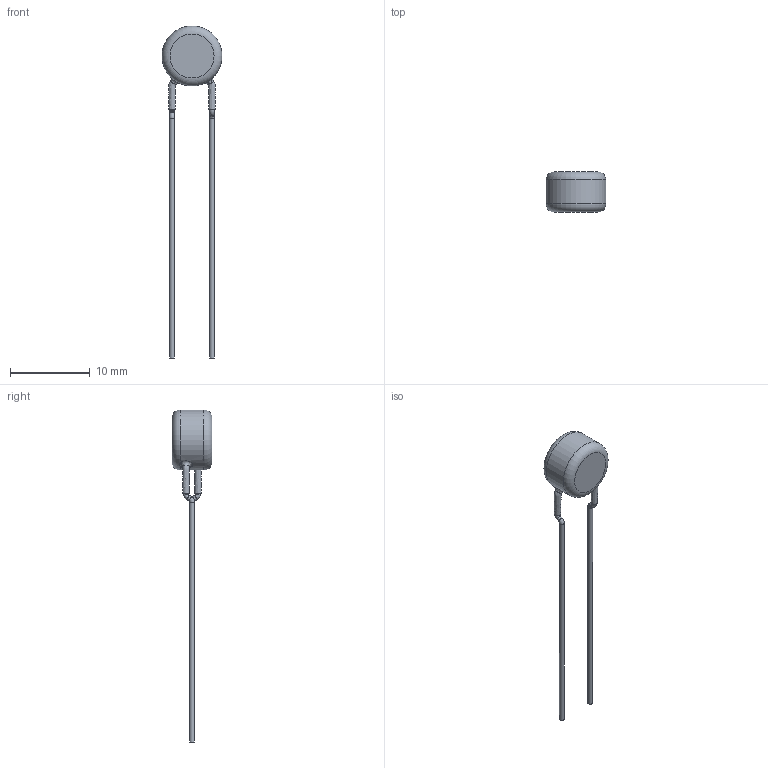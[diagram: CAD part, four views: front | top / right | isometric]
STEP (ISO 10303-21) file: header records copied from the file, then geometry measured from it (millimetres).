
FILE_DESCRIPTION(/* description */ (''),/* implementation_level */ '2;1');
FILE_NAME(/* name */ 'I:\Marketing\M6t1\3D-Models\Zchng-Werk-3\Upload for homepage\BCC\AY2\Inline Dia 0,6 LS 5\AY2100K29U2JS63V5.stp',/* time_stamp */ '2020-11-05T15:34:13+01:00',/* author */ ('truediger'),/* organization */ (''),/* preprocessor_version */ 'ST-DEVELOPER v18',/* originating_system */ 'Autodesk Inventor 2020',/* authorisation */ '');
FILE_SCHEMA (('AUTOMOTIVE_DESIGN { 1 0 10303 214 3 1 1 }'));
Length unit declared in the file: millimetre
Products named in the file (1): Bauteil7
Bounding box: 7.5 x 5 x 41.5 mm (x, y, z)
Volume: 233.6 mm3; surface area: 322.3 mm2
Topology: 1 solids, 1 shells, 29 faces, 77 edges, 52 vertices
Faces by surface type: cylinder 9, bspline 8, torus 6, plane 6
Full cylindrical faces by diameter (mm): 0.6 x4, 7.5 x1
Entity records: 2108 total; most frequent: CARTESIAN_POINT 1347, ORIENTED_EDGE 154, DIRECTION 141, EDGE_CURVE 77, AXIS2_PLACEMENT_3D 68, VERTEX_POINT 52, CIRCLE 44, EDGE_LOOP 31
